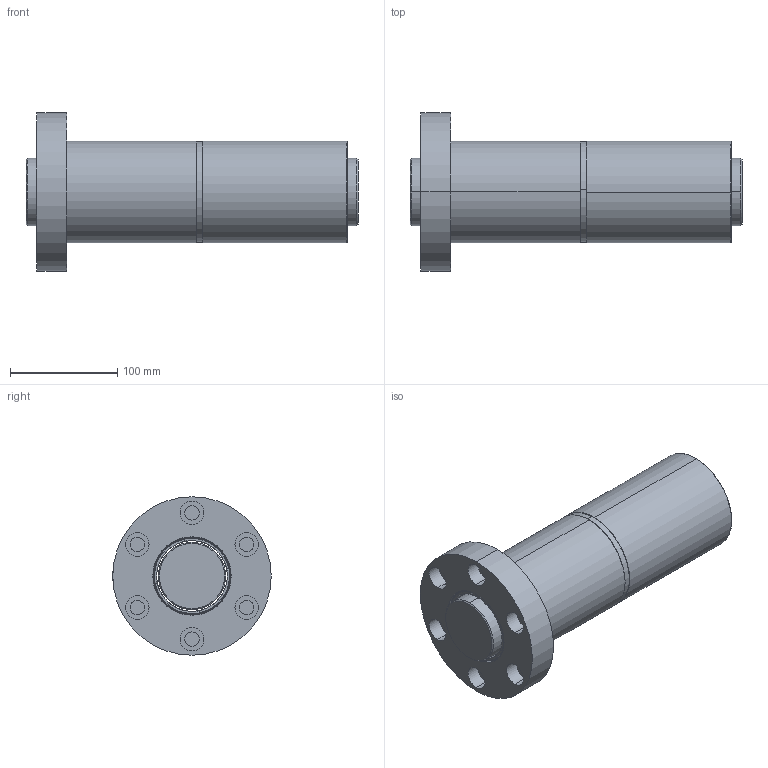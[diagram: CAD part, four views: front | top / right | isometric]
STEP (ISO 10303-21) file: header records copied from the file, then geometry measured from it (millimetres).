
FILE_DESCRIPTION (( 'STEP AP203' ), '1' );
FILE_NAME ('DFZR06320T4N-C.STEP', '2020-06-18T01:26:23', ( '' ), ( '' ), 'SwSTEP 2.0', 'SolidWorks 2013', '' );
FILE_SCHEMA (( 'CONFIG_CONTROL_DESIGN' ));
Length unit declared in the file: millimetre
Products named in the file (1): DFZR06320T4N-C
Bounding box: 310 x 148 x 148 mm (x, y, z)
Volume: 2254973.2 mm3; surface area: 263689.4 mm2
Topology: 2 solids, 2 shells, 134 faces, 294 edges, 188 vertices
Faces by surface type: cylinder 74, plane 36, torus 20, cone 4
Entity records: 4241 total; most frequent: CARTESIAN_POINT 1125, DIRECTION 692, ORIENTED_EDGE 588, AXIS2_PLACEMENT_3D 307, EDGE_CURVE 294, VERTEX_POINT 188, CIRCLE 172, EDGE_LOOP 162
